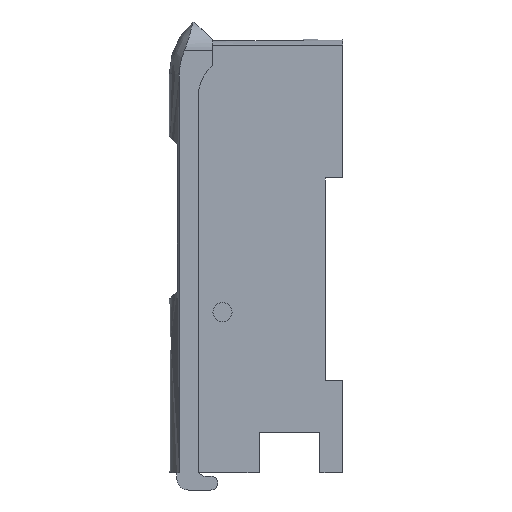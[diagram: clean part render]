
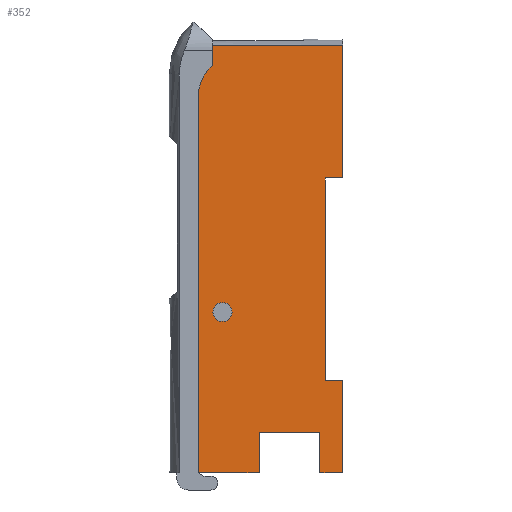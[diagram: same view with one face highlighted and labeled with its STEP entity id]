
A CAD part, left-side view. The second image highlights one B-rep face of the part: STEP entity #352.
In plain terms, the highlighted planar face has unit normal (-1, 0, 0).
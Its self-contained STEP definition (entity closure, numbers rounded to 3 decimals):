
#47 = VERTEX_POINT ( 'NONE', #1964 ) ;
#49 = EDGE_CURVE ( 'NONE', #47, #135, #1962, .T. ) ;
#57 = VERTEX_POINT ( 'NONE', #2018 ) ;
#135 = VERTEX_POINT ( 'NONE', #2202 ) ;
#328 = VERTEX_POINT ( 'NONE', #2484 ) ;
#335 = VERTEX_POINT ( 'NONE', #2538 ) ;
#352 = ADVANCED_FACE ( 'NONE', ( #2582, #2581 ), #2580, .F. ) ;
#353 = EDGE_LOOP ( 'NONE', ( #354, #356 ) ) ;
#354 = ORIENTED_EDGE ( 'NONE', *, *, #355, .F. ) ;
#355 = EDGE_CURVE ( 'NONE', #135, #47, #2575, .T. ) ;
#356 = ORIENTED_EDGE ( 'NONE', *, *, #49, .F. ) ;
#357 = EDGE_LOOP ( 'NONE', ( #358, #362, #425, #427, #428, #431, #434, #437, #411, #414, #417, #420, #423, #397 ) ) ;
#358 = ORIENTED_EDGE ( 'NONE', *, *, #359, .F. ) ;
#359 = EDGE_CURVE ( 'NONE', #360, #361, #2570, .T. ) ;
#360 = VERTEX_POINT ( 'NONE', #2566 ) ;
#361 = VERTEX_POINT ( 'NONE', #2565 ) ;
#362 = ORIENTED_EDGE ( 'NONE', *, *, #363, .F. ) ;
#363 = EDGE_CURVE ( 'NONE', #364, #360, #2564, .T. ) ;
#364 = VERTEX_POINT ( 'NONE', #2560 ) ;
#394 = EDGE_CURVE ( 'NONE', #335, #328, #2636, .T. ) ;
#397 = ORIENTED_EDGE ( 'NONE', *, *, #398, .T. ) ;
#398 = EDGE_CURVE ( 'NONE', #57, #361, #2631, .T. ) ;
#409 = EDGE_CURVE ( 'NONE', #436, #410, #2673, .T. ) ;
#410 = VERTEX_POINT ( 'NONE', #2669 ) ;
#411 = ORIENTED_EDGE ( 'NONE', *, *, #412, .T. ) ;
#412 = EDGE_CURVE ( 'NONE', #410, #413, #2668, .T. ) ;
#413 = VERTEX_POINT ( 'NONE', #2664 ) ;
#414 = ORIENTED_EDGE ( 'NONE', *, *, #415, .F. ) ;
#415 = EDGE_CURVE ( 'NONE', #416, #413, #2663, .T. ) ;
#416 = VERTEX_POINT ( 'NONE', #2659 ) ;
#417 = ORIENTED_EDGE ( 'NONE', *, *, #418, .F. ) ;
#418 = EDGE_CURVE ( 'NONE', #419, #416, #2658, .T. ) ;
#419 = VERTEX_POINT ( 'NONE', #2654 ) ;
#420 = ORIENTED_EDGE ( 'NONE', *, *, #421, .T. ) ;
#421 = EDGE_CURVE ( 'NONE', #419, #422, #2653, .T. ) ;
#422 = VERTEX_POINT ( 'NONE', #2649 ) ;
#423 = ORIENTED_EDGE ( 'NONE', *, *, #424, .T. ) ;
#424 = EDGE_CURVE ( 'NONE', #422, #57, #2648, .T. ) ;
#425 = ORIENTED_EDGE ( 'NONE', *, *, #426, .F. ) ;
#426 = EDGE_CURVE ( 'NONE', #328, #364, #2708, .T. ) ;
#427 = ORIENTED_EDGE ( 'NONE', *, *, #394, .F. ) ;
#428 = ORIENTED_EDGE ( 'NONE', *, *, #429, .F. ) ;
#429 = EDGE_CURVE ( 'NONE', #430, #335, #2704, .T. ) ;
#430 = VERTEX_POINT ( 'NONE', #2700 ) ;
#431 = ORIENTED_EDGE ( 'NONE', *, *, #432, .F. ) ;
#432 = EDGE_CURVE ( 'NONE', #433, #430, #2699, .T. ) ;
#433 = VERTEX_POINT ( 'NONE', #2695 ) ;
#434 = ORIENTED_EDGE ( 'NONE', *, *, #435, .T. ) ;
#435 = EDGE_CURVE ( 'NONE', #433, #436, #2694, .T. ) ;
#436 = VERTEX_POINT ( 'NONE', #2690 ) ;
#437 = ORIENTED_EDGE ( 'NONE', *, *, #409, .T. ) ;
#1961 = AXIS2_PLACEMENT_3D ( 'NONE', #2026, #2025, #2024 ) ;
#1962 = CIRCLE ( 'NONE', #1961, 1.65 ) ;
#1964 = CARTESIAN_POINT ( 'NONE',  ( -5., 17.8, -48.85 ) ) ;
#2018 = CARTESIAN_POINT ( 'NONE',  ( -5., 0., -24. ) ) ;
#2024 = DIRECTION ( 'NONE',  ( 0., 0., 1. ) ) ;
#2025 = DIRECTION ( 'NONE',  ( -1., 0., 0. ) ) ;
#2026 = CARTESIAN_POINT ( 'NONE',  ( -5., 17.8, -47.2 ) ) ;
#2202 = CARTESIAN_POINT ( 'NONE',  ( -5., 17.8, -45.55 ) ) ;
#2484 = CARTESIAN_POINT ( 'NONE',  ( -5., 19.5, -4.5 ) ) ;
#2538 = CARTESIAN_POINT ( 'NONE',  ( -5., 22., -9.862 ) ) ;
#2560 = CARTESIAN_POINT ( 'NONE',  ( -5., 19.5, -1. ) ) ;
#2561 = DIRECTION ( 'NONE',  ( 0., -1., 0. ) ) ;
#2562 = VECTOR ( 'NONE', #2561, 1000. ) ;
#2563 = CARTESIAN_POINT ( 'NONE',  ( -5., 124.547, -1. ) ) ;
#2564 = LINE ( 'NONE', #2563, #2562 ) ;
#2565 = CARTESIAN_POINT ( 'NONE',  ( -5., -3., -24. ) ) ;
#2566 = CARTESIAN_POINT ( 'NONE',  ( -5., -3., -1. ) ) ;
#2567 = DIRECTION ( 'NONE',  ( 0., 0., -1. ) ) ;
#2568 = VECTOR ( 'NONE', #2567, 1000. ) ;
#2569 = CARTESIAN_POINT ( 'NONE',  ( -5., -3., 0. ) ) ;
#2570 = LINE ( 'NONE', #2569, #2568 ) ;
#2571 = DIRECTION ( 'NONE',  ( 0., 0., 1. ) ) ;
#2572 = DIRECTION ( 'NONE',  ( -1., 0., 0. ) ) ;
#2573 = CARTESIAN_POINT ( 'NONE',  ( -5., 17.8, -47.2 ) ) ;
#2574 = AXIS2_PLACEMENT_3D ( 'NONE', #2573, #2572, #2571 ) ;
#2575 = CIRCLE ( 'NONE', #2574, 1.65 ) ;
#2576 = DIRECTION ( 'NONE',  ( 0., 0., -1. ) ) ;
#2577 = DIRECTION ( 'NONE',  ( 1., 0., 0. ) ) ;
#2578 = CARTESIAN_POINT ( 'NONE',  ( -5., -3., 0. ) ) ;
#2579 = AXIS2_PLACEMENT_3D ( 'NONE', #2578, #2577, #2576 ) ;
#2580 = PLANE ( 'NONE',  #2579 ) ;
#2581 = FACE_OUTER_BOUND ( 'NONE', #357, .T. ) ;
#2582 = FACE_BOUND ( 'NONE', #353, .T. ) ;
#2628 = DIRECTION ( 'NONE',  ( 0., -1., 0. ) ) ;
#2629 = VECTOR ( 'NONE', #2628, 1000. ) ;
#2630 = CARTESIAN_POINT ( 'NONE',  ( -5., 0., -24. ) ) ;
#2631 = LINE ( 'NONE', #2630, #2629 ) ;
#2632 = DIRECTION ( 'NONE',  ( 0., 0., -1. ) ) ;
#2633 = DIRECTION ( 'NONE',  ( 1., 0., 0. ) ) ;
#2634 = CARTESIAN_POINT ( 'NONE',  ( -5., 15., -9.862 ) ) ;
#2635 = AXIS2_PLACEMENT_3D ( 'NONE', #2634, #2633, #2632 ) ;
#2636 = CIRCLE ( 'NONE', #2635, 7. ) ;
#2646 = VECTOR ( 'NONE', #2709, 1000. ) ;
#2647 = CARTESIAN_POINT ( 'NONE',  ( -5., 0., -24. ) ) ;
#2648 = LINE ( 'NONE', #2647, #2646 ) ;
#2649 = CARTESIAN_POINT ( 'NONE',  ( -5., 0., -59. ) ) ;
#2650 = DIRECTION ( 'NONE',  ( 0., 1., 0. ) ) ;
#2651 = VECTOR ( 'NONE', #2650, 1000. ) ;
#2652 = CARTESIAN_POINT ( 'NONE',  ( -5., 0., -59. ) ) ;
#2653 = LINE ( 'NONE', #2652, #2651 ) ;
#2654 = CARTESIAN_POINT ( 'NONE',  ( -5., -3., -59. ) ) ;
#2655 = DIRECTION ( 'NONE',  ( 0., 0., -1. ) ) ;
#2656 = VECTOR ( 'NONE', #2655, 1000. ) ;
#2657 = CARTESIAN_POINT ( 'NONE',  ( -5., -3., 0. ) ) ;
#2658 = LINE ( 'NONE', #2657, #2656 ) ;
#2659 = CARTESIAN_POINT ( 'NONE',  ( -5., -3., -75. ) ) ;
#2660 = DIRECTION ( 'NONE',  ( 0., 1., 0. ) ) ;
#2661 = VECTOR ( 'NONE', #2660, 1000. ) ;
#2662 = CARTESIAN_POINT ( 'NONE',  ( -5., 22., -75. ) ) ;
#2663 = LINE ( 'NONE', #2662, #2661 ) ;
#2664 = CARTESIAN_POINT ( 'NONE',  ( -5., 0.95, -75. ) ) ;
#2665 = DIRECTION ( 'NONE',  ( 0., 0., -1. ) ) ;
#2666 = VECTOR ( 'NONE', #2665, 1000. ) ;
#2667 = CARTESIAN_POINT ( 'NONE',  ( -5., 0.95, -75. ) ) ;
#2668 = LINE ( 'NONE', #2667, #2666 ) ;
#2669 = CARTESIAN_POINT ( 'NONE',  ( -5., 0.95, -68. ) ) ;
#2670 = DIRECTION ( 'NONE',  ( 0., -1., 0. ) ) ;
#2671 = VECTOR ( 'NONE', #2670, 1000. ) ;
#2672 = CARTESIAN_POINT ( 'NONE',  ( -5., 11.45, -68. ) ) ;
#2673 = LINE ( 'NONE', #2672, #2671 ) ;
#2690 = CARTESIAN_POINT ( 'NONE',  ( -5., 11.45, -68. ) ) ;
#2691 = DIRECTION ( 'NONE',  ( 0., 0., 1. ) ) ;
#2692 = VECTOR ( 'NONE', #2691, 1000. ) ;
#2693 = CARTESIAN_POINT ( 'NONE',  ( -5., 11.45, -75. ) ) ;
#2694 = LINE ( 'NONE', #2693, #2692 ) ;
#2695 = CARTESIAN_POINT ( 'NONE',  ( -5., 11.45, -75. ) ) ;
#2696 = DIRECTION ( 'NONE',  ( 0., 1., 0. ) ) ;
#2697 = VECTOR ( 'NONE', #2696, 1000. ) ;
#2698 = CARTESIAN_POINT ( 'NONE',  ( -5., 22., -75. ) ) ;
#2699 = LINE ( 'NONE', #2698, #2697 ) ;
#2700 = CARTESIAN_POINT ( 'NONE',  ( -5., 22., -75. ) ) ;
#2701 = DIRECTION ( 'NONE',  ( 0., 0., 1. ) ) ;
#2702 = VECTOR ( 'NONE', #2701, 1000. ) ;
#2703 = CARTESIAN_POINT ( 'NONE',  ( -5., 22., 0. ) ) ;
#2704 = LINE ( 'NONE', #2703, #2702 ) ;
#2705 = DIRECTION ( 'NONE',  ( 0., 0., 1. ) ) ;
#2706 = VECTOR ( 'NONE', #2705, 1000. ) ;
#2707 = CARTESIAN_POINT ( 'NONE',  ( -5., 19.5, -85.933 ) ) ;
#2708 = LINE ( 'NONE', #2707, #2706 ) ;
#2709 = DIRECTION ( 'NONE',  ( 0., 0., 1. ) ) ;
